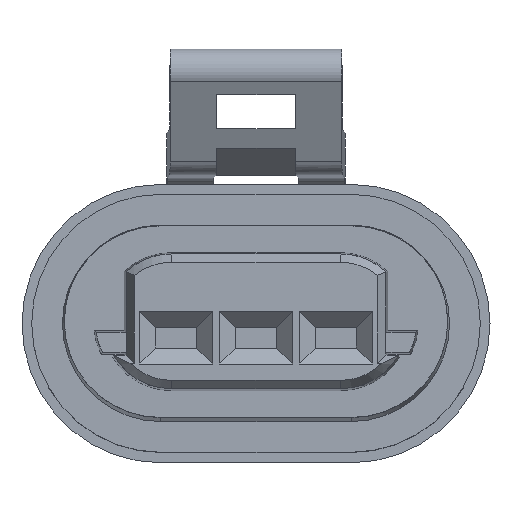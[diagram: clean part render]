
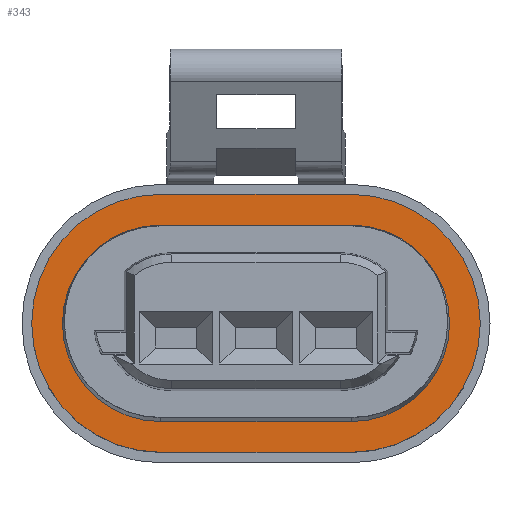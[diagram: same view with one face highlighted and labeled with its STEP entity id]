
A CAD part, top view. The second image highlights one B-rep face of the part: STEP entity #343.
In plain terms, the highlighted planar face has unit normal (0, 0, 1).
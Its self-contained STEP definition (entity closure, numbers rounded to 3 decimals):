
#42=FACE_BOUND('',#687,.T.);
#43=FACE_BOUND('',#688,.T.);
#196=PLANE('',#3106);
#343=ADVANCED_FACE('',(#42,#43),#196,.F.);
#687=EDGE_LOOP('',(#1836,#1837,#1838,#1839));
#688=EDGE_LOOP('',(#1840,#1841,#1842,#1843));
#764=LINE('',#4026,#1043);
#766=LINE('',#4030,#1045);
#908=LINE('',#4585,#1187);
#912=LINE('',#4594,#1191);
#1043=VECTOR('',#3205,1.);
#1045=VECTOR('',#3209,1.);
#1187=VECTOR('',#3691,1.);
#1191=VECTOR('',#3697,1.);
#1836=ORIENTED_EDGE('',*,*,#2436,.F.);
#1837=ORIENTED_EDGE('',*,*,#2441,.F.);
#1838=ORIENTED_EDGE('',*,*,#2438,.F.);
#1839=ORIENTED_EDGE('',*,*,#2432,.F.);
#1840=ORIENTED_EDGE('',*,*,#2694,.T.);
#1841=ORIENTED_EDGE('',*,*,#2686,.T.);
#1842=ORIENTED_EDGE('',*,*,#2682,.T.);
#1843=ORIENTED_EDGE('',*,*,#2690,.T.);
#2162=VERTEX_POINT('',#4017);
#2163=VERTEX_POINT('',#4019);
#2165=VERTEX_POINT('',#4025);
#2167=VERTEX_POINT('',#4031);
#2327=VERTEX_POINT('',#4576);
#2328=VERTEX_POINT('',#4578);
#2330=VERTEX_POINT('',#4586);
#2333=VERTEX_POINT('',#4593);
#2432=EDGE_CURVE('',#2162,#2163,#2852,.T.);
#2436=EDGE_CURVE('',#2165,#2162,#764,.T.);
#2438=EDGE_CURVE('',#2163,#2167,#766,.T.);
#2441=EDGE_CURVE('',#2167,#2165,#2854,.T.);
#2682=EDGE_CURVE('',#2328,#2327,#2899,.T.);
#2686=EDGE_CURVE('',#2330,#2328,#908,.T.);
#2690=EDGE_CURVE('',#2327,#2333,#912,.T.);
#2694=EDGE_CURVE('',#2333,#2330,#2902,.T.);
#2852=CIRCLE('',#2925,4.304);
#2854=CIRCLE('',#2930,4.304);
#2899=CIRCLE('',#3094,5.65);
#2902=CIRCLE('',#3104,5.65);
#2925=AXIS2_PLACEMENT_3D('',#4018,#3198,#3199);
#2930=AXIS2_PLACEMENT_3D('',#4035,#3215,#3216);
#3094=AXIS2_PLACEMENT_3D('',#4577,#3681,#3682);
#3104=AXIS2_PLACEMENT_3D('',#4602,#3710,#3711);
#3106=AXIS2_PLACEMENT_3D('',#4604,#3714,#3715);
#3198=DIRECTION('',(0.,0.,1.));
#3199=DIRECTION('',(1.,0.,0.));
#3205=DIRECTION('',(-1.,0.,0.));
#3209=DIRECTION('',(1.,0.,0.));
#3215=DIRECTION('',(0.,0.,1.));
#3216=DIRECTION('',(1.,0.,0.));
#3681=DIRECTION('',(0.,0.,1.));
#3682=DIRECTION('',(1.,0.,0.));
#3691=DIRECTION('',(-1.,0.,0.));
#3697=DIRECTION('',(1.,0.,0.));
#3710=DIRECTION('',(0.,0.,1.));
#3711=DIRECTION('',(1.,0.,0.));
#3714=DIRECTION('',(0.,0.,-1.));
#3715=DIRECTION('',(-1.,0.,0.));
#4017=CARTESIAN_POINT('',(-4.175,4.374,-2.525));
#4018=CARTESIAN_POINT('',(-4.175,0.07,-2.525));
#4019=CARTESIAN_POINT('',(-4.175,-4.234,-2.525));
#4025=CARTESIAN_POINT('',(4.175,4.374,-2.525));
#4026=CARTESIAN_POINT('',(4.175,4.374,-2.525));
#4030=CARTESIAN_POINT('',(-4.175,-4.234,-2.525));
#4031=CARTESIAN_POINT('',(4.175,-4.234,-2.525));
#4035=CARTESIAN_POINT('',(4.175,0.07,-2.525));
#4576=CARTESIAN_POINT('',(-4.175,-5.58,-2.525));
#4577=CARTESIAN_POINT('',(-4.175,0.07,-2.525));
#4578=CARTESIAN_POINT('',(-4.175,5.72,-2.525));
#4585=CARTESIAN_POINT('',(4.175,5.72,-2.525));
#4586=CARTESIAN_POINT('',(4.175,5.72,-2.525));
#4593=CARTESIAN_POINT('',(4.175,-5.58,-2.525));
#4594=CARTESIAN_POINT('',(-4.175,-5.58,-2.525));
#4602=CARTESIAN_POINT('',(4.175,0.07,-2.525));
#4604=CARTESIAN_POINT('',(4.175,-5.58,-2.525));
